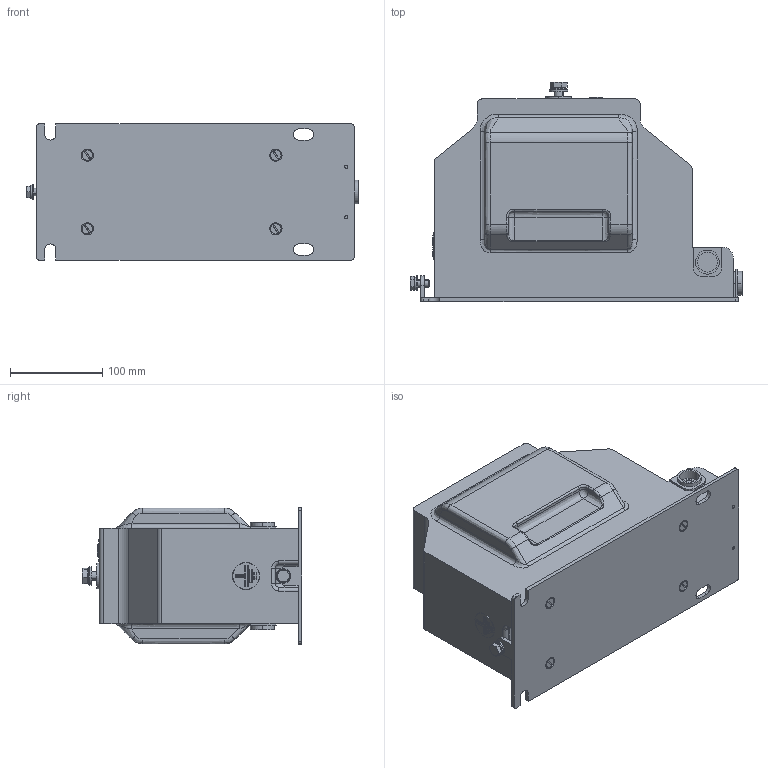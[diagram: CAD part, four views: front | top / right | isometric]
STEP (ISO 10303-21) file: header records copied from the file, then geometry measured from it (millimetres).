
FILE_DESCRIPTION (( 'STEP AP203' ), '1' );
FILE_NAME ('2111000999.STEP', '2017-11-07T06:19:14', ( '' ), ( '' ), 'SwSTEP 2.0', 'SolidWorks 2017', '' );
FILE_SCHEMA (( 'CONFIG_CONTROL_DESIGN' ));
Length unit declared in the file: millimetre
Products named in the file (1): 2111000999
Bounding box: 360.75 x 238.62 x 148 mm (x, y, z)
Volume: 6793048.3 mm3; surface area: 309276.4 mm2
Topology: 9 solids, 44 shells, 1916 faces, 4792 edges, 2945 vertices
Faces by surface type: plane 866, cylinder 541, cone 168, bspline 166, torus 114, sphere 61
Entity records: 79315 total; most frequent: CARTESIAN_POINT 34511, ORIENTED_EDGE 9442, DIRECTION 9164, EDGE_CURVE 4721, AXIS2_PLACEMENT_3D 3504, VERTEX_POINT 2945, VECTOR 2156, LINE 2156
